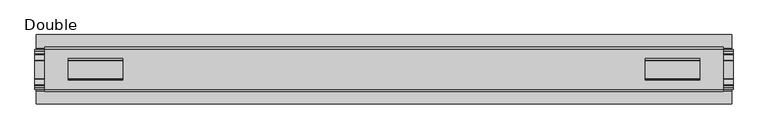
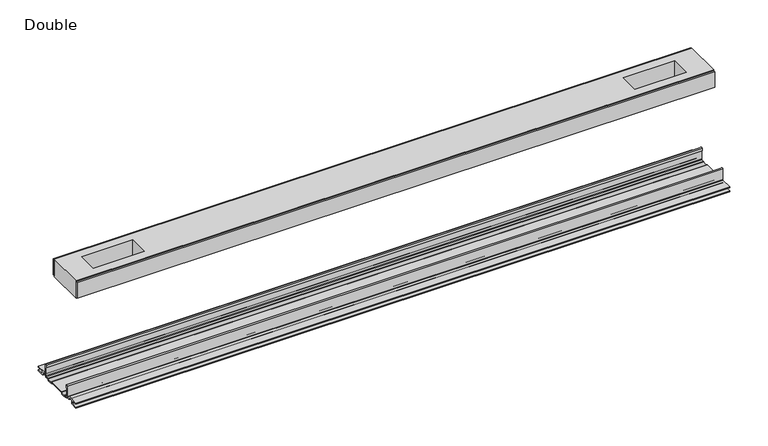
"""IFC4 building model written with IfcOpenShell, lengths in millimetres: proxy geometry, Frame-Teknion-FHCRA-Horizontal_Rail-R2022 : Double."""

from ifc_helpers import new_model, si_unit, point, frame, frame_2d, origin, place, context, project, spatial, polyline, circle_curve, trimmed, segment, composite_curve, outline, extrude, source, transform, mapped, element, save


def double_ccc50d66(model_context):
    return source(origin(), model_context, "Body", "SweptSolid", [
        extrude(outline(polyline([(492.0615091, 29.0068005), (-492.0615091, 29.0068005), (-492.0615091, 32.1817997), (492.0615091, 32.1817997), (492.0615091, 29.0068005)])), frame((0.0, 0.0, 149.8401622), z_axis=(0.0, 0.0, 1.0), x_axis=(1.0, 0.0, 0.0)), (0.0, 0.0, 1.0), 25.3999939),
        extrude(outline(polyline([(492.0615091, -32.1817997), (-492.0615091, -32.1817997), (-492.0615091, -29.0068005), (492.0615091, -29.0068005), (492.0615091, -32.1817997)])), frame((0.0, 0.0, 149.8401622), z_axis=(0.0, 0.0, 1.0), x_axis=(1.0, 0.0, 0.0)), (0.0, 0.0, 1.0), 25.3999939),
        extrude(outline(polyline([(492.0615091, -29.0068005), (-492.0615091, -29.0068005), (-492.0615091, 29.0068005), (492.0615091, 29.0068005), (492.0615091, -29.0068005)]), holes=[polyline([(457.6444965, -15.1130038), (457.6444965, 15.875003), (378.5996847, 15.875003), (378.5996847, -15.1130038), (457.6444965, -15.1130038)]), polyline([(-457.6444965, -15.1130038), (-378.5996847, -15.1130038), (-378.5996847, 15.875003), (-457.6444965, 15.875003), (-457.6444965, -15.1130038)])]), frame((0.0, 0.0, 148.4185847), z_axis=(0.0, 0.0, 1.0), x_axis=(1.0, 0.0, 0.0)), (0.0, 0.0, 1.0), 27.9999988),
        extrude(outline(composite_curve([segment(trimmed(circle_curve(frame_2d((26.6420561, -7.7516037)), 2.17424), [point((28.8162961, -7.7516037))], [point((26.6420561, -9.9258438))], False, "CARTESIAN"), True, "CONTINUOUS"), segment(polyline([(26.6420561, -9.9258438), (22.3510694, -9.9258438)]), True, "CONTINUOUS"), segment(trimmed(circle_curve(frame_2d((17.7706549, -6.4800016)), 5.7318431), [point((22.3510694, -9.9258438))], [point((13.1902404, -9.9258438))], False, "CARTESIAN"), True, "CONTINUOUS"), segment(polyline([(13.1902404, -9.9258438), (-13.57124, -9.9258438)]), True, "CONTINUOUS"), segment(trimmed(circle_curve(frame_2d((-18.1516545, -6.4800016)), 5.7318431), [point((-13.57124, -9.9258438))], [point((-22.732069, -9.9258438))], False, "CARTESIAN"), True, "CONTINUOUS"), segment(polyline([(-22.732069, -9.9258438), (-27.0230557, -9.9258438)]), True, "CONTINUOUS"), segment(trimmed(circle_curve(frame_2d((-27.0230557, -7.7516037)), 2.17424), [point((-27.0230557, -9.9258438))], [point((-29.1972958, -7.7516037))], False, "CARTESIAN"), True, "CONTINUOUS"), segment(polyline([(-29.1972958, -7.7516037), (-29.1972958, 9.8607558)]), True, "CONTINUOUS"), segment(trimmed(circle_curve(frame_2d((-27.9780978, 9.8607558)), 1.2191979), [point((-29.1972958, 9.8607558))], [point((-26.7588999, 9.8607558))], False, "CARTESIAN"), True, "CONTINUOUS"), segment(polyline([(-26.7588999, 9.8607558), (-26.7588999, 5.9999563), (-28.0390765, 5.9999563), (-28.0390765, -7.7516037)]), True, "CONTINUOUS"), segment(trimmed(circle_curve(frame_2d((-27.0230557, -7.7516037)), 1.0160208), [point((-28.0390765, -7.7516037))], [point((-27.0295728, -8.7676036))], True, "CARTESIAN"), True, "CONTINUOUS"), segment(polyline([(-27.0295728, -8.7676036), (-23.0866222, -8.7676036), (-22.1732605, -8.968753)]), True, "CONTINUOUS"), segment(trimmed(circle_curve(frame_2d((-18.1483018, -6.1259382)), 4.9276657), [point((-22.1732605, -8.968753))], [point((-14.123343, -8.968753))], True, "CARTESIAN"), True, "CONTINUOUS"), segment(polyline([(-14.123343, -8.968753), (-13.2099722, -8.7676036), (12.8289726, -8.7676036), (13.7423434, -8.968753)]), True, "CONTINUOUS"), segment(trimmed(circle_curve(frame_2d((17.7673021, -6.1259382)), 4.9276657), [point((13.7423434, -8.968753))], [point((21.7922609, -8.968753))], True, "CARTESIAN"), True, "CONTINUOUS"), segment(polyline([(21.7922609, -8.968753), (22.7056226, -8.7676036), (26.6485732, -8.7676036)]), True, "CONTINUOUS"), segment(trimmed(circle_curve(frame_2d((26.6420561, -7.7516037)), 1.0160208), [point((26.6485732, -8.7676036))], [point((27.6580769, -7.7516037))], True, "CARTESIAN"), True, "CONTINUOUS"), segment(polyline([(27.6580769, -7.7516037), (27.6580769, 5.9999563), (26.3779003, 5.9999563), (26.3779003, 9.8607558)]), True, "CONTINUOUS"), segment(trimmed(circle_curve(frame_2d((27.5970982, 9.8607558)), 1.2191979), [point((26.3779003, 9.8607558))], [point((28.8162961, 9.8607558))], False, "CARTESIAN"), True, "CONTINUOUS"), segment(polyline([(28.8162961, 9.8607558), (28.8162961, -7.7516037)]), True, "CONTINUOUS")], self_intersect=False)), frame((-506.1204, 0.0, 0.0), z_axis=(1.0, 0.0, 0.0), x_axis=(0.0, 1.0, 0.0)), (0.0, 0.0, 1.0), 1012.2408),
        extrude(outline(composite_curve([segment(polyline([(50.2668422, -13.9898438), (39.6557522, -13.9898438)]), True, "CONTINUOUS"), segment(trimmed(circle_curve(frame_2d((39.6557522, -12.4658438)), 1.524), [point((39.6557522, -13.9898438))], [point((38.1317522, -12.4658438))], False, "CARTESIAN"), True, "CONTINUOUS"), segment(polyline([(38.1317522, -12.4658438), (38.1317522, -7.766844), (31.3054974, -7.766844), (31.3054974, -10.0528438)]), True, "CONTINUOUS"), segment(trimmed(circle_curve(frame_2d((29.7814974, -10.0528438)), 1.524), [point((31.3054974, -10.0528438))], [point((29.7814974, -11.5768438))], False, "CARTESIAN"), True, "CONTINUOUS"), segment(polyline([(29.7814974, -11.5768438), (23.2753553, -11.5768438)]), True, "CONTINUOUS"), segment(trimmed(circle_curve(frame_2d((17.7673021, -6.4968436)), 7.4930002), [point((23.2753553, -11.5768438))], [point((12.5094972, -11.8354331))], False, "CARTESIAN"), True, "CONTINUOUS"), segment(polyline([(12.5094972, -11.8354331), (-12.8904968, -11.8354331)]), True, "CONTINUOUS"), segment(trimmed(circle_curve(frame_2d((-18.1483018, -6.4968436)), 7.4930002), [point((-12.8904968, -11.8354331))], [point((-23.6563549, -11.5768438))], False, "CARTESIAN"), True, "CONTINUOUS"), segment(polyline([(-23.6563549, -11.5768438), (-30.1624971, -11.5768438)]), True, "CONTINUOUS"), segment(trimmed(circle_curve(frame_2d((-30.1624971, -10.0528438)), 1.524), [point((-30.1624971, -11.5768438))], [point((-31.686497, -10.0528438))], False, "CARTESIAN"), True, "CONTINUOUS"), segment(polyline([(-31.686497, -10.0528438), (-31.686497, -7.766844), (-38.5127519, -7.766844), (-38.5127519, -12.4658438)]), True, "CONTINUOUS"), segment(trimmed(circle_curve(frame_2d((-40.0367518, -12.4658438)), 1.524), [point((-38.5127519, -12.4658438))], [point((-40.0367518, -13.9898438))], False, "CARTESIAN"), True, "CONTINUOUS"), segment(polyline([(-40.0367518, -13.9898438), (-50.00625, -13.9898438), (-50.00625, -12.3388438), (-40.1637503, -12.3388438), (-40.1637503, -7.766844), (-50.00625, -7.766844), (-50.00625, -6.1158439), (-31.6239218, -6.1158439)]), True, "CONTINUOUS"), segment(trimmed(circle_curve(frame_2d((-31.6864982, -7.7656583)), 1.6510007), [point((-31.6239218, -6.1158439))], [point((-30.0354975, -7.7656583))], False, "CARTESIAN"), True, "CONTINUOUS"), segment(polyline([(-30.0354975, -7.7656583), (-30.0354975, -9.9258438), (-23.486834, -9.9258438)]), True, "CONTINUOUS"), segment(trimmed(circle_curve(frame_2d((-18.1483018, -5.2268471)), 7.1119966), [point((-23.486834, -9.9258438))], [point((-12.8097695, -9.9258438))], True, "CARTESIAN"), True, "CONTINUOUS"), segment(polyline([(-12.8097695, -9.9258438), (12.4287699, -9.9258438)]), True, "CONTINUOUS"), segment(trimmed(circle_curve(frame_2d((17.7673021, -5.2268471)), 7.1119966), [point((12.4287699, -9.9258438))], [point((23.1058344, -9.9258438))], True, "CARTESIAN"), True, "CONTINUOUS"), segment(polyline([(23.1058344, -9.9258438), (29.6544978, -9.9258438), (29.6544978, -7.6398436)]), True, "CONTINUOUS"), segment(trimmed(circle_curve(frame_2d((31.1784975, -7.6398436)), 1.5239997), [point((29.6544978, -7.6398436))], [point((31.1784975, -6.1158439))], False, "CARTESIAN"), True, "CONTINUOUS"), segment(polyline([(31.1784975, -6.1158439), (50.2668422, -6.1158439), (50.2240211, -7.766844), (39.7827507, -7.766844), (39.7827507, -12.3388438), (50.2240211, -12.3388438), (50.2668422, -13.9898438)]), True, "CONTINUOUS")], self_intersect=False)), frame((-504.4694, 0.0, 0.0), z_axis=(1.0, 0.0, 0.0), x_axis=(0.0, 1.0, 0.0)), (0.0, 0.0, 1.0), 1008.9388),
    ])


if __name__ == "__main__":
    model = new_model("IFC4")
    model_context = context("Model", 3, world=origin())
    ifc_project = project(units=[si_unit("LENGTHUNIT", "METRE", prefix="MILLI")], contexts=[model_context])
    site = spatial("IfcSite", under=ifc_project)
    building = spatial("IfcBuilding", under=site)
    placement = place(None, origin())
    double_shape = double_ccc50d66(model_context)
    element("IfcBuildingElementProxy", 1, Name="Frame-Teknion-FHCRA-Horizontal_Rail-R2022 : Double", ObjectType="Frame-Teknion-FHCRA-Horizontal_Rail-R2022 : Double", at=placement, inside=building, context=model_context, shape_type="MappedRepresentation", body=[
        mapped(double_shape, transform((0.0, 0.0, 0.0), x_axis=(1.0, 0.0, 0.0), y_axis=(0.0, 1.0, 0.0), z_axis=(0.0, 0.0, 1.0))),
    ])
    save(model, "model.ifc")
